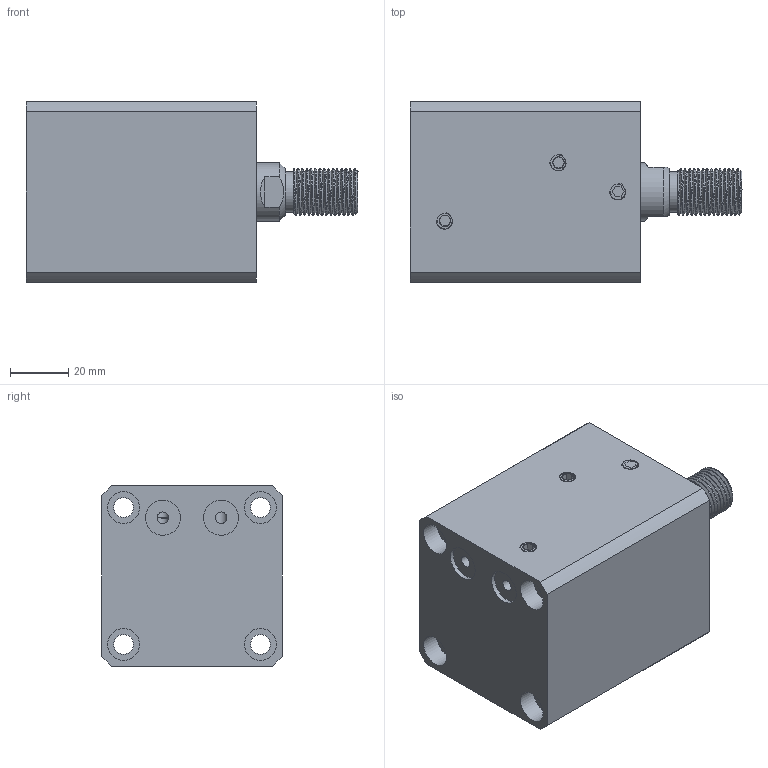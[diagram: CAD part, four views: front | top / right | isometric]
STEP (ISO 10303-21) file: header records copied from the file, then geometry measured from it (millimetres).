
FILE_DESCRIPTION(/* description */ (''),/* implementation_level */ '2;1');
FILE_NAME(/* name */ 'CHTB-sdmb32x25w.stp',/* time_stamp */ '2022-04-29T17:13:40+08:00',/* author */ (''),/* organization */ (''),/* preprocessor_version */ 'ST-DEVELOPER v16.7',/* originating_system */ 'SIEMENS PLM Software NX 12.0',/* authorisation */ '');
FILE_SCHEMA (('AUTOMOTIVE_DESIGN { 1 0 10303 214 3 1 1 1 }'));
Length unit declared in the file: millimetre
Products named in the file (1): CHTB-sdmb32x25w
Bounding box: 114 x 62 x 62 mm (x, y, z)
Volume: 279752.8 mm3; surface area: 62232.4 mm2
Topology: 6 solids, 6 shells, 591 faces, 1627 edges, 1096 vertices
Faces by surface type: plane 341, extrusion 113, cylinder 62, bspline 48, cone 15, torus 12
Full cylindrical faces by diameter (mm): 3 x2, 4 x4, 6.8 x4, 11 x8, 12 x2, 14 x1, 20 x2, 24.5 x1, 26 x2, 32 x4, 40 x1
Entity records: 37892 total; most frequent: CARTESIAN_POINT 21333, ORIENTED_EDGE 3110, DIRECTION 2156, EDGE_CURVE 1555, VERTEX_POINT 1074, VECTOR 1058, LINE 945, EDGE_LOOP 705
